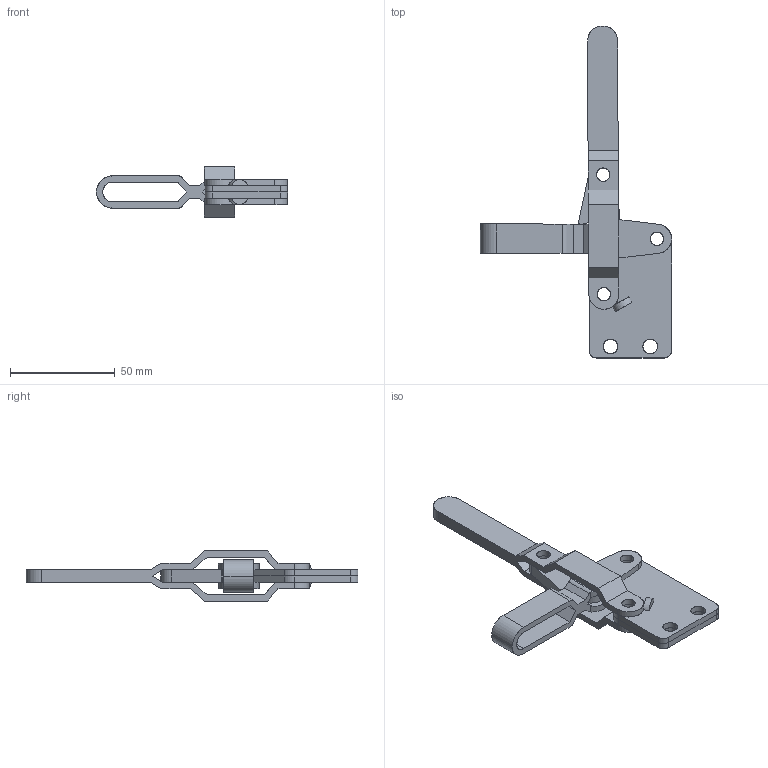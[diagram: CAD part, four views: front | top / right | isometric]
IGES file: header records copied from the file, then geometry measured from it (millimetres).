
Start section: SolidWorks IGES file using analytic representation for surfaces
Global section: file name: D:\GH Files\GH-SW-FILES\GH1\GH-101D\101DI\GH-101DI.IGS; native system: SolidWorks 2006 by SolidWorks Corporation; preprocessor: SolidWorks 2006 by SolidWorks Corporation; author: Administrator; date: 060825.171022; units: millimetre
Bounding box: 91.41 x 158.8 x 24 mm (x, y, z)
Surface area: 26155.3 mm2 (no closed solid volume)
Topology: 0 solids, 0 shells, 145 faces, 2404 edges, 2404 vertices
Faces by surface type: bspline 74, revolution 71
